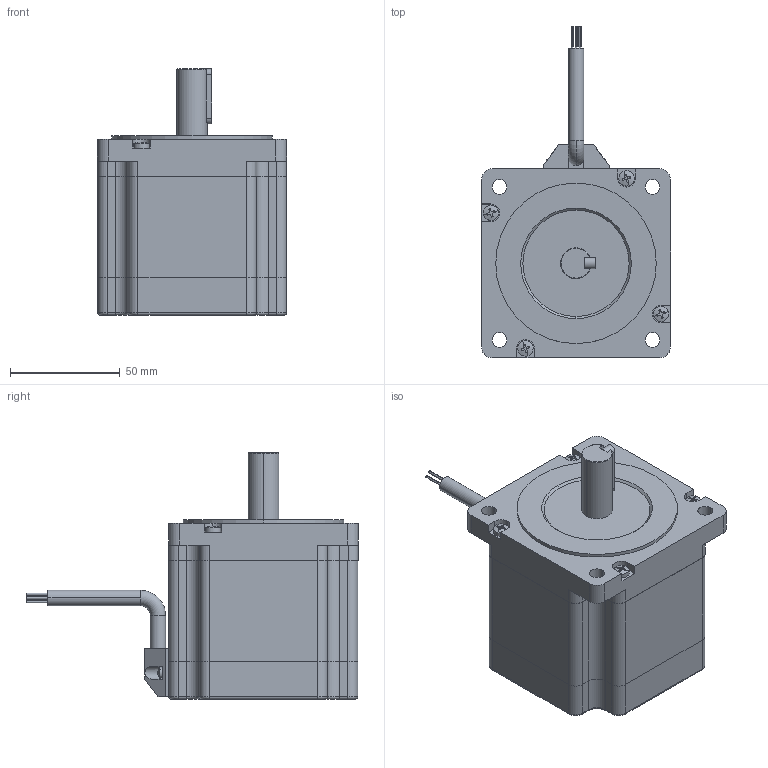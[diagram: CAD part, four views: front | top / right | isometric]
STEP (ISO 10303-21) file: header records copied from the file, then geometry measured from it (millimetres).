
FILE_DESCRIPTION (( 'STEP AP203' ), '1' );
FILE_NAME ('86J1880-460-14(K)-JH.STEP', '2020-01-02T07:10:40', ( 'USER-' ), ( 'MS' ), 'SwSTEP 2.0', 'SolidWorks 2015', '' );
FILE_SCHEMA (( 'CONFIG_CONTROL_DESIGN' ));
Length unit declared in the file: millimetre
Products named in the file (9): 86x17奻裔14x32瑩羞16x25楊擘73x1.6遵58.2; 86綴裔17mm(遵58.2); 压线栓（单线）30x22x11; 耳7L倰4郋盄; cross recessed pan head screws gb_GB_CROSS_SCREWS_TYPE1 M2.5X3-3  H type-N; cross recessed small pan head screws gb_GB_CROSS_SCREWS_TYPE3 M4X5-5-N; 5x25邧埴瑩; 86J1880-460-14(K)-JH; 86儂旯46mm(遵58.2)
Assembly tree (12 placements, depth 2):
  86J1880-460-14(K)-JH
    86儂旯46mm(遵58.2)
    86x17奻裔14x32瑩羞16x25楊擘73x1.6遵58.2
    86綴裔17mm(遵58.2)
    压线栓（单线）30x22x11
    耳7L倰4郋盄
    cross recessed pan head screws gb_GB_CROSS_SCREWS_TYPE1 M2.5X3-3  H type-N  x2
    cross recessed small pan head screws gb_GB_CROSS_SCREWS_TYPE3 M4X5-5-N  x4
    5x25邧埴瑩
Bounding box: 86 x 151 x 112 mm (x, y, z)
Volume: 541456.5 mm3; surface area: 78901.9 mm2
Topology: 12 solids, 12 shells, 394 faces, 1045 edges, 686 vertices
Faces by surface type: plane 199, cylinder 165, torus 14, sphere 12, cone 4
Entity records: 10374 total; most frequent: CARTESIAN_POINT 1738, DIRECTION 1673, ORIENTED_EDGE 1554, EDGE_CURVE 777, AXIS2_PLACEMENT_3D 621, VERTEX_POINT 508, VECTOR 431, LINE 431
